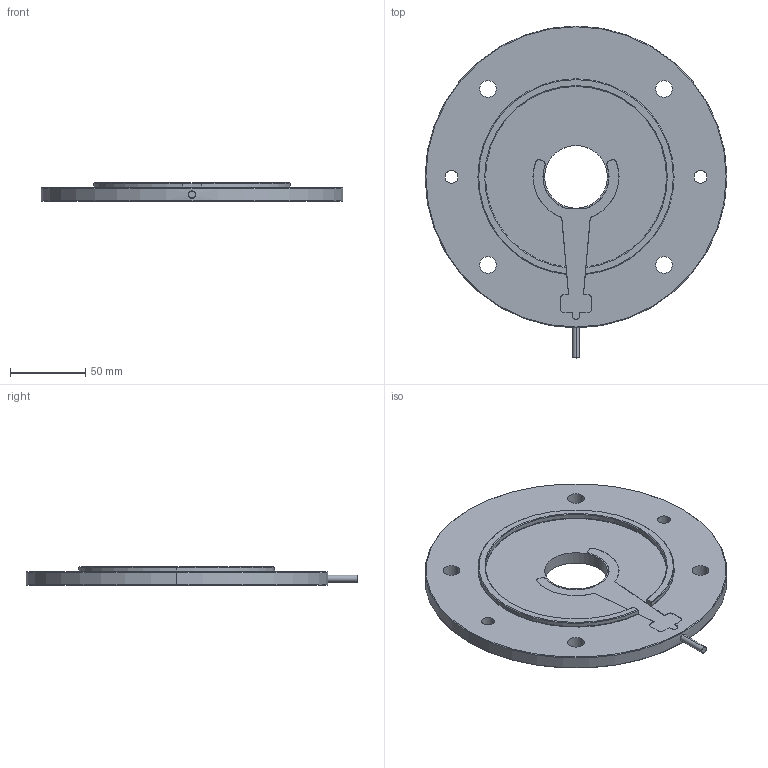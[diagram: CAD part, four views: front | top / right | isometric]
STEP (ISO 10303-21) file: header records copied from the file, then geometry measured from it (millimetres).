
FILE_DESCRIPTION (( 'STEP AP203' ), '1' );
FILE_NAME ('MRH200-9.STEP', '2024-12-16T09:54:51', ( '' ), ( '' ), 'SwSTEP 2.0', 'SolidWorks 2023', '' );
FILE_SCHEMA (( 'CONFIG_CONTROL_DESIGN' ));
Length unit declared in the file: millimetre
Products named in the file (1): MRH200-9
Bounding box: 200 x 220 x 12.5 mm (x, y, z)
Volume: 225677.9 mm3; surface area: 76411.2 mm2
Topology: 1 solids, 3 shells, 163 faces, 431 edges, 277 vertices
Faces by surface type: cylinder 83, plane 54, cone 14, torus 12
Entity records: 5387 total; most frequent: CARTESIAN_POINT 1091, DIRECTION 945, ORIENTED_EDGE 862, EDGE_CURVE 431, AXIS2_PLACEMENT_3D 371, VERTEX_POINT 277, CIRCLE 207, VECTOR 203
